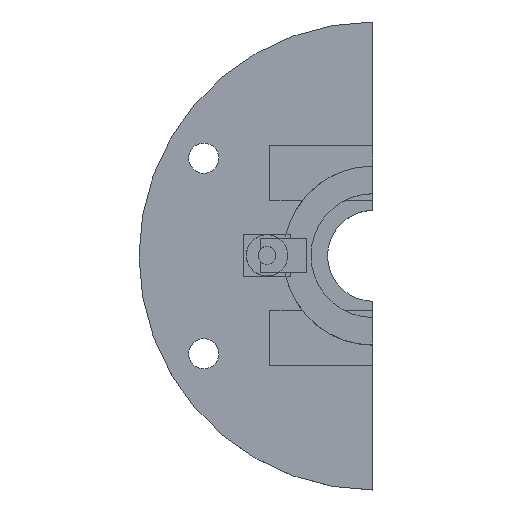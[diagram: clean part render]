
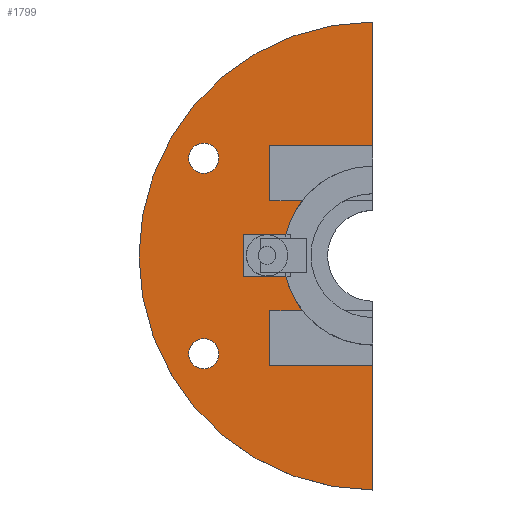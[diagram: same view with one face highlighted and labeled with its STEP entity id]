
A CAD part, top view. The second image highlights one B-rep face of the part: STEP entity #1799.
In plain terms, the highlighted planar face has unit normal (0, 0, 1).
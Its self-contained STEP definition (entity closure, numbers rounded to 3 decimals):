
#43 = PLANE('',#44);
#44 = AXIS2_PLACEMENT_3D('',#45,#46,#47);
#45 = CARTESIAN_POINT('',(0.,-60.,-70.));
#46 = DIRECTION('',(1.,0.,0.));
#47 = DIRECTION('',(0.,0.,1.));
#98 = PLANE('',#99);
#99 = AXIS2_PLACEMENT_3D('',#100,#101,#102);
#100 = CARTESIAN_POINT('',(0.,-60.,-70.));
#101 = DIRECTION('',(1.,0.,0.));
#102 = DIRECTION('',(0.,0.,1.));
#875 = VERTEX_POINT('',#876);
#876 = CARTESIAN_POINT('',(0.,17.,3.));
#889 = CYLINDRICAL_SURFACE('',#890,17.);
#890 = AXIS2_PLACEMENT_3D('',#891,#892,#893);
#891 = CARTESIAN_POINT('',(0.,0.,1.5));
#892 = DIRECTION('',(0.,0.,1.));
#893 = DIRECTION('',(1.,0.,-0.));
#900 = EDGE_CURVE('',#901,#875,#903,.T.);
#901 = VERTEX_POINT('',#902);
#902 = CARTESIAN_POINT('',(0.,6.5,3.));
#903 = SURFACE_CURVE('',#904,(#908,#914),.PCURVE_S1.);
#904 = LINE('',#905,#906);
#905 = CARTESIAN_POINT('',(0.,-30.,3.));
#906 = VECTOR('',#907,1.);
#907 = DIRECTION('',(0.,1.,0.));
#908 = PCURVE('',#43,#909);
#909 = DEFINITIONAL_REPRESENTATION('',(#910),#913);
#910 = B_SPLINE_CURVE_WITH_KNOTS('',1,(#911,#912),.UNSPECIFIED.,.F.,.F.,
  (2,2),(13.,47.),.PIECEWISE_BEZIER_KNOTS.);
#911 = CARTESIAN_POINT('',(73.,-43.));
#912 = CARTESIAN_POINT('',(73.,-77.));
#913 = ( GEOMETRIC_REPRESENTATION_CONTEXT(2) 
PARAMETRIC_REPRESENTATION_CONTEXT() REPRESENTATION_CONTEXT('2D SPACE',''
  ) );
#914 = PCURVE('',#915,#920);
#915 = PLANE('',#916);
#916 = AXIS2_PLACEMENT_3D('',#917,#918,#919);
#917 = CARTESIAN_POINT('',(0.,0.,3.));
#918 = DIRECTION('',(0.,0.,1.));
#919 = DIRECTION('',(1.,0.,-0.));
#920 = DEFINITIONAL_REPRESENTATION('',(#921),#924);
#921 = B_SPLINE_CURVE_WITH_KNOTS('',1,(#922,#923),.UNSPECIFIED.,.F.,.F.,
  (2,2),(13.,47.),.PIECEWISE_BEZIER_KNOTS.);
#922 = CARTESIAN_POINT('',(0.,-17.));
#923 = CARTESIAN_POINT('',(0.,17.));
#924 = ( GEOMETRIC_REPRESENTATION_CONTEXT(2) 
PARAMETRIC_REPRESENTATION_CONTEXT() REPRESENTATION_CONTEXT('2D SPACE',''
  ) );
#939 = CYLINDRICAL_SURFACE('',#940,6.5);
#940 = AXIS2_PLACEMENT_3D('',#941,#942,#943);
#941 = CARTESIAN_POINT('',(0.,0.,1.5));
#942 = DIRECTION('',(0.,0.,1.));
#943 = DIRECTION('',(1.,0.,-0.));
#1055 = VERTEX_POINT('',#1056);
#1056 = CARTESIAN_POINT('',(0.,-6.5,3.));
#1075 = EDGE_CURVE('',#1076,#1055,#1078,.T.);
#1076 = VERTEX_POINT('',#1077);
#1077 = CARTESIAN_POINT('',(0.,-17.,3.));
#1078 = SURFACE_CURVE('',#1079,(#1083,#1089),.PCURVE_S1.);
#1079 = LINE('',#1080,#1081);
#1080 = CARTESIAN_POINT('',(0.,-30.,3.));
#1081 = VECTOR('',#1082,1.);
#1082 = DIRECTION('',(0.,1.,0.));
#1083 = PCURVE('',#98,#1084);
#1084 = DEFINITIONAL_REPRESENTATION('',(#1085),#1088);
#1085 = B_SPLINE_CURVE_WITH_KNOTS('',1,(#1086,#1087),.UNSPECIFIED.,.F.,
  .F.,(2,2),(13.,47.),.PIECEWISE_BEZIER_KNOTS.);
#1086 = CARTESIAN_POINT('',(73.,-43.));
#1087 = CARTESIAN_POINT('',(73.,-77.));
#1088 = ( GEOMETRIC_REPRESENTATION_CONTEXT(2) 
PARAMETRIC_REPRESENTATION_CONTEXT() REPRESENTATION_CONTEXT('2D SPACE',''
  ) );
#1089 = PCURVE('',#915,#1090);
#1090 = DEFINITIONAL_REPRESENTATION('',(#1091),#1094);
#1091 = B_SPLINE_CURVE_WITH_KNOTS('',1,(#1092,#1093),.UNSPECIFIED.,.F.,
  .F.,(2,2),(13.,47.),.PIECEWISE_BEZIER_KNOTS.);
#1092 = CARTESIAN_POINT('',(0.,-17.));
#1093 = CARTESIAN_POINT('',(0.,17.));
#1094 = ( GEOMETRIC_REPRESENTATION_CONTEXT(2) 
PARAMETRIC_REPRESENTATION_CONTEXT() REPRESENTATION_CONTEXT('2D SPACE',''
  ) );
#1776 = EDGE_CURVE('',#901,#1055,#1777,.T.);
#1777 = SURFACE_CURVE('',#1778,(#1783,#1790),.PCURVE_S1.);
#1778 = CIRCLE('',#1779,6.5);
#1779 = AXIS2_PLACEMENT_3D('',#1780,#1781,#1782);
#1780 = CARTESIAN_POINT('',(0.,0.,3.));
#1781 = DIRECTION('',(0.,0.,1.));
#1782 = DIRECTION('',(1.,0.,-0.));
#1783 = PCURVE('',#939,#1784);
#1784 = DEFINITIONAL_REPRESENTATION('',(#1785),#1789);
#1785 = LINE('',#1786,#1787);
#1786 = CARTESIAN_POINT('',(0.,1.5));
#1787 = VECTOR('',#1788,1.);
#1788 = DIRECTION('',(1.,0.));
#1789 = ( GEOMETRIC_REPRESENTATION_CONTEXT(2) 
PARAMETRIC_REPRESENTATION_CONTEXT() REPRESENTATION_CONTEXT('2D SPACE',''
  ) );
#1790 = PCURVE('',#915,#1791);
#1791 = DEFINITIONAL_REPRESENTATION('',(#1792),#1796);
#1792 = CIRCLE('',#1793,6.5);
#1793 = AXIS2_PLACEMENT_2D('',#1794,#1795);
#1794 = CARTESIAN_POINT('',(0.,0.));
#1795 = DIRECTION('',(1.,0.));
#1796 = ( GEOMETRIC_REPRESENTATION_CONTEXT(2) 
PARAMETRIC_REPRESENTATION_CONTEXT() REPRESENTATION_CONTEXT('2D SPACE',''
  ) );
#1799 = ADVANCED_FACE('',(#1800,#1827,#1858),#915,.T.);
#1800 = FACE_BOUND('',#1801,.T.);
#1801 = EDGE_LOOP('',(#1802,#1803,#1825,#1826));
#1802 = ORIENTED_EDGE('',*,*,#900,.T.);
#1803 = ORIENTED_EDGE('',*,*,#1804,.T.);
#1804 = EDGE_CURVE('',#875,#1076,#1805,.T.);
#1805 = SURFACE_CURVE('',#1806,(#1811,#1818),.PCURVE_S1.);
#1806 = CIRCLE('',#1807,17.);
#1807 = AXIS2_PLACEMENT_3D('',#1808,#1809,#1810);
#1808 = CARTESIAN_POINT('',(0.,0.,3.));
#1809 = DIRECTION('',(0.,0.,1.));
#1810 = DIRECTION('',(1.,0.,-0.));
#1811 = PCURVE('',#915,#1812);
#1812 = DEFINITIONAL_REPRESENTATION('',(#1813),#1817);
#1813 = CIRCLE('',#1814,17.);
#1814 = AXIS2_PLACEMENT_2D('',#1815,#1816);
#1815 = CARTESIAN_POINT('',(0.,0.));
#1816 = DIRECTION('',(1.,0.));
#1817 = ( GEOMETRIC_REPRESENTATION_CONTEXT(2) 
PARAMETRIC_REPRESENTATION_CONTEXT() REPRESENTATION_CONTEXT('2D SPACE',''
  ) );
#1818 = PCURVE('',#889,#1819);
#1819 = DEFINITIONAL_REPRESENTATION('',(#1820),#1824);
#1820 = LINE('',#1821,#1822);
#1821 = CARTESIAN_POINT('',(0.,1.5));
#1822 = VECTOR('',#1823,1.);
#1823 = DIRECTION('',(1.,0.));
#1824 = ( GEOMETRIC_REPRESENTATION_CONTEXT(2) 
PARAMETRIC_REPRESENTATION_CONTEXT() REPRESENTATION_CONTEXT('2D SPACE',''
  ) );
#1825 = ORIENTED_EDGE('',*,*,#1075,.T.);
#1826 = ORIENTED_EDGE('',*,*,#1776,.F.);
#1827 = FACE_BOUND('',#1828,.T.);
#1828 = EDGE_LOOP('',(#1829));
#1829 = ORIENTED_EDGE('',*,*,#1830,.F.);
#1830 = EDGE_CURVE('',#1831,#1831,#1833,.T.);
#1831 = VERTEX_POINT('',#1832);
#1832 = CARTESIAN_POINT('',(-11.2,-7.1,3.));
#1833 = SURFACE_CURVE('',#1834,(#1839,#1846),.PCURVE_S1.);
#1834 = CIRCLE('',#1835,1.1);
#1835 = AXIS2_PLACEMENT_3D('',#1836,#1837,#1838);
#1836 = CARTESIAN_POINT('',(-12.3,-7.1,3.));
#1837 = DIRECTION('',(0.,0.,1.));
#1838 = DIRECTION('',(1.,0.,-0.));
#1839 = PCURVE('',#915,#1840);
#1840 = DEFINITIONAL_REPRESENTATION('',(#1841),#1845);
#1841 = CIRCLE('',#1842,1.1);
#1842 = AXIS2_PLACEMENT_2D('',#1843,#1844);
#1843 = CARTESIAN_POINT('',(-12.3,-7.1));
#1844 = DIRECTION('',(1.,0.));
#1845 = ( GEOMETRIC_REPRESENTATION_CONTEXT(2) 
PARAMETRIC_REPRESENTATION_CONTEXT() REPRESENTATION_CONTEXT('2D SPACE',''
  ) );
#1846 = PCURVE('',#1847,#1852);
#1847 = CYLINDRICAL_SURFACE('',#1848,1.1);
#1848 = AXIS2_PLACEMENT_3D('',#1849,#1850,#1851);
#1849 = CARTESIAN_POINT('',(-12.3,-7.1,1.4));
#1850 = DIRECTION('',(0.,0.,1.));
#1851 = DIRECTION('',(1.,0.,-0.));
#1852 = DEFINITIONAL_REPRESENTATION('',(#1853),#1857);
#1853 = LINE('',#1854,#1855);
#1854 = CARTESIAN_POINT('',(0.,1.6));
#1855 = VECTOR('',#1856,1.);
#1856 = DIRECTION('',(1.,0.));
#1857 = ( GEOMETRIC_REPRESENTATION_CONTEXT(2) 
PARAMETRIC_REPRESENTATION_CONTEXT() REPRESENTATION_CONTEXT('2D SPACE',''
  ) );
#1858 = FACE_BOUND('',#1859,.T.);
#1859 = EDGE_LOOP('',(#1860));
#1860 = ORIENTED_EDGE('',*,*,#1861,.F.);
#1861 = EDGE_CURVE('',#1862,#1862,#1864,.T.);
#1862 = VERTEX_POINT('',#1863);
#1863 = CARTESIAN_POINT('',(-11.2,7.1,3.));
#1864 = SURFACE_CURVE('',#1865,(#1870,#1877),.PCURVE_S1.);
#1865 = CIRCLE('',#1866,1.1);
#1866 = AXIS2_PLACEMENT_3D('',#1867,#1868,#1869);
#1867 = CARTESIAN_POINT('',(-12.3,7.1,3.));
#1868 = DIRECTION('',(0.,0.,1.));
#1869 = DIRECTION('',(1.,0.,-0.));
#1870 = PCURVE('',#915,#1871);
#1871 = DEFINITIONAL_REPRESENTATION('',(#1872),#1876);
#1872 = CIRCLE('',#1873,1.1);
#1873 = AXIS2_PLACEMENT_2D('',#1874,#1875);
#1874 = CARTESIAN_POINT('',(-12.3,7.1));
#1875 = DIRECTION('',(1.,0.));
#1876 = ( GEOMETRIC_REPRESENTATION_CONTEXT(2) 
PARAMETRIC_REPRESENTATION_CONTEXT() REPRESENTATION_CONTEXT('2D SPACE',''
  ) );
#1877 = PCURVE('',#1878,#1883);
#1878 = CYLINDRICAL_SURFACE('',#1879,1.1);
#1879 = AXIS2_PLACEMENT_3D('',#1880,#1881,#1882);
#1880 = CARTESIAN_POINT('',(-12.3,7.1,1.4));
#1881 = DIRECTION('',(0.,0.,1.));
#1882 = DIRECTION('',(1.,0.,-0.));
#1883 = DEFINITIONAL_REPRESENTATION('',(#1884),#1888);
#1884 = LINE('',#1885,#1886);
#1885 = CARTESIAN_POINT('',(0.,1.6));
#1886 = VECTOR('',#1887,1.);
#1887 = DIRECTION('',(1.,0.));
#1888 = ( GEOMETRIC_REPRESENTATION_CONTEXT(2) 
PARAMETRIC_REPRESENTATION_CONTEXT() REPRESENTATION_CONTEXT('2D SPACE',''
  ) );
